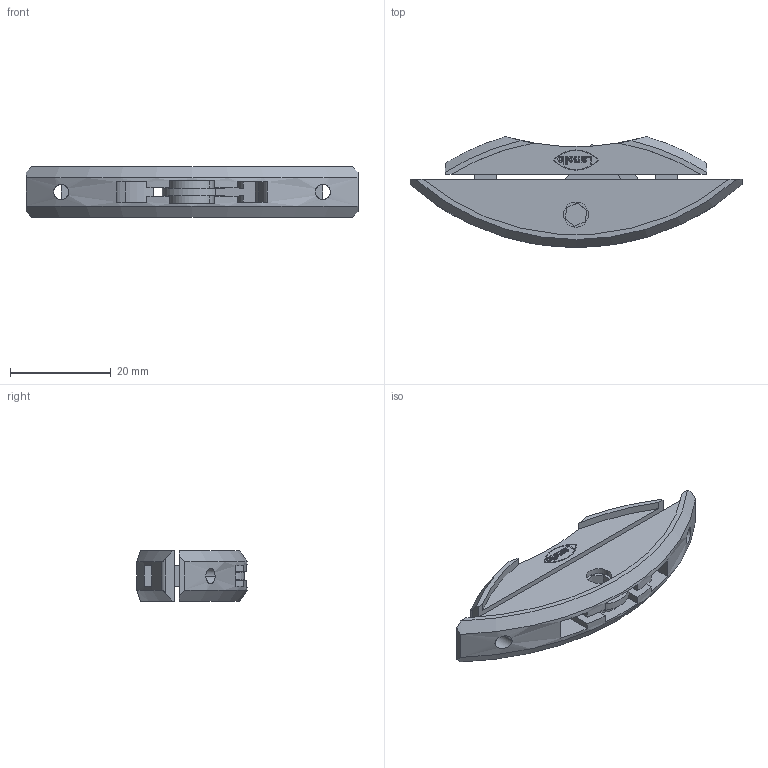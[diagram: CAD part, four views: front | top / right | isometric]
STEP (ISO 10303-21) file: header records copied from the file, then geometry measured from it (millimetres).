
FILE_DESCRIPTION((''),'2;1');
FILE_NAME('OPO_86.005.46.step','2015-06-01T06:35:03',(''),(''),'Mechanical Desktop 2010','Mechanical Desktop 2010',', , ');
FILE_SCHEMA(('CONFIG_CONTROL_DESIGN'));
Length unit declared in the file: millimetre
Products named in the file (1): Product
Bounding box: 66 x 22 x 10 mm (x, y, z)
Volume: 5411.8 mm3; surface area: 6277.8 mm2
Topology: 3 solids, 3 shells, 223 faces, 1133 edges, 1463 vertices
Faces by surface type: plane 126, cylinder 48, bspline 43, cone 6
Entity records: 10785 total; most frequent: CARTESIAN_POINT 3419, DIRECTION 1450, ORIENTED_EDGE 1194, VECTOR 786, LINE 786, EDGE_CURVE 597, TRIMMED_CURVE 446, VERTEX_POINT 398
